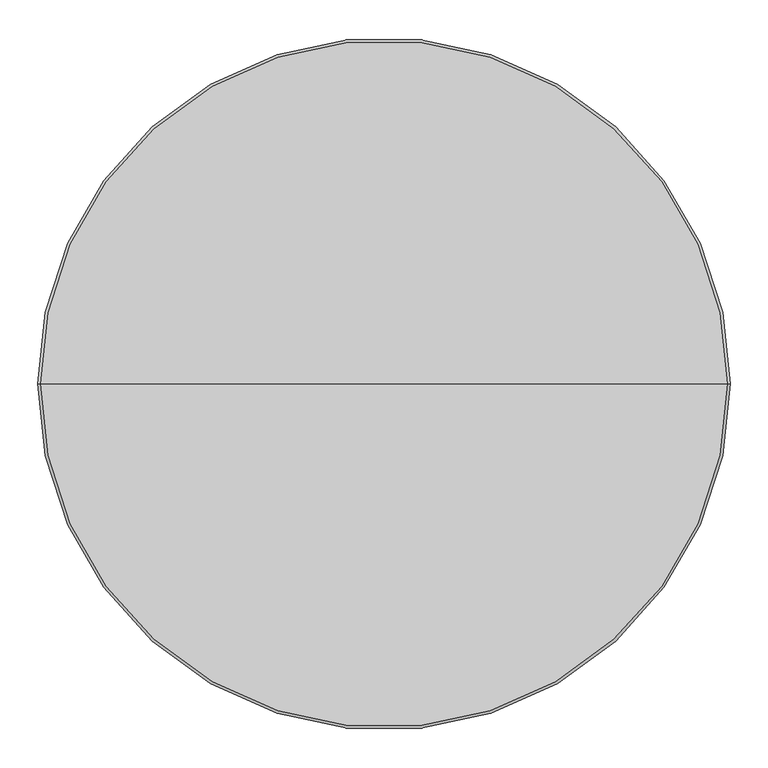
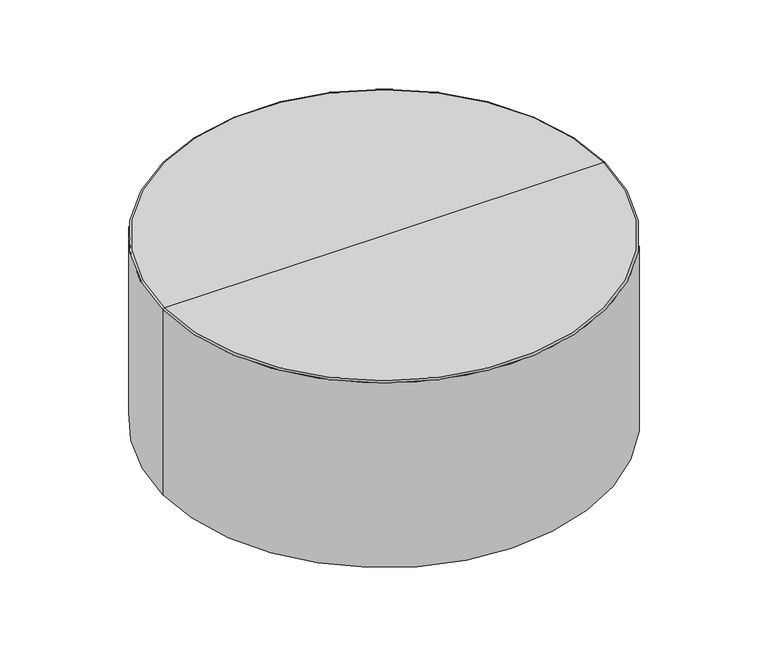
"""IFC4 building model written with IfcOpenShell, lengths in millimetres: furniture geometry, StanceHC-Drum_Table_Upholstered : DRT-36D-16-H."""

from ifc_helpers import new_model, si_unit, point, frame, frame_2d, origin, origin_with_axes, place, context, project, spatial, circle_curve, ellipse_curve, trimmed, segment, composite_curve, outline, extrude, source, transform, mapped, element, save
from ifc_brep_helpers import plane_surface, cylinder_surface, revolved_surface, advanced_brep


def furniture_af896ca5(model_context):
    return source(origin(), model_context, "Body", "SolidModel", [
        extrude(outline(composite_curve([segment(trimmed(circle_curve(frame_2d((0.0, 396.1664845)), 12.7), [point((-12.7, 396.1664845))], [point((12.7, 396.1664845))], False, "CARTESIAN"), True, "CONTINUOUS"), segment(trimmed(circle_curve(frame_2d((0.0, 396.1664845)), 12.7), [point((12.7, 396.1664845))], [point((-12.7, 396.1664845))], False, "CARTESIAN"), True, "CONTINUOUS")], self_intersect=False)), origin_with_axes(), (0.0, 0.0, 1.0), 4.7625),
        extrude(outline(composite_curve([segment(trimmed(circle_curve(frame_2d((0.0, -396.1664845)), 12.7), [point((-12.7, -396.1664845))], [point((12.7, -396.1664845))], False, "CARTESIAN"), True, "CONTINUOUS"), segment(trimmed(circle_curve(frame_2d((0.0, -396.1664845)), 12.7), [point((12.7, -396.1664845))], [point((-12.7, -396.1664845))], False, "CARTESIAN"), True, "CONTINUOUS")], self_intersect=False)), origin_with_axes(), (0.0, 0.0, 1.0), 4.7625),
        extrude(outline(composite_curve([segment(trimmed(circle_curve(frame_2d((400.0496404, 0.0)), 12.7), [point((387.3496404, 0.0))], [point((412.7496404, 0.0))], False, "CARTESIAN"), True, "CONTINUOUS"), segment(trimmed(circle_curve(frame_2d((400.0496404, 0.0)), 12.7), [point((412.7496404, 0.0))], [point((387.3496404, 0.0))], False, "CARTESIAN"), True, "CONTINUOUS")], self_intersect=False)), origin_with_axes(), (0.0, 0.0, 1.0), 4.7625),
        extrude(outline(composite_curve([segment(trimmed(circle_curve(frame_2d((-400.0496404, 0.0)), 12.7), [point((-412.7496404, 0.0))], [point((-387.3496404, 0.0))], False, "CARTESIAN"), True, "CONTINUOUS"), segment(trimmed(circle_curve(frame_2d((-400.0496404, 0.0)), 12.7), [point((-387.3496404, 0.0))], [point((-412.7496404, 0.0))], False, "CARTESIAN"), True, "CONTINUOUS")], self_intersect=False)), origin_with_axes(), (0.0, 0.0, 1.0), 4.7625),
        advanced_brep(
        [(-457.2, 0.0, 4.7625), (457.2, 0.0, 4.7625), (0.0, 0.0, 4.7625), (-457.2, 0.0, 408.0389933), (457.2, 0.0, 408.0389933), (-454.0764933, 0.0, 411.1625), (454.0764933, 0.0, 411.1625), (0.0, 0.0, 411.1625)],
        [
            (0, 1, circle_curve(frame((0.0, 0.0, 4.7625), z_axis=(0.0, 0.0, -1.0), x_axis=(1.0, 0.0, 0.0)), 457.2)),
            (1, 2),
            (2, 0),
            (1, 0, circle_curve(frame((0.0, 0.0, 4.7625), z_axis=(0.0, 0.0, -1.0), x_axis=(1.0, 0.0, 0.0)), 457.2)),
            (3, 4, circle_curve(frame((0.0, 0.0, 408.0389933), z_axis=(0.0, 0.0, -1.0), x_axis=(1.0, 0.0, 0.0)), 457.2)),
            (4, 1),
            (0, 3),
            (4, 3, circle_curve(frame((0.0, 0.0, 408.0389933), z_axis=(0.0, 0.0, -1.0), x_axis=(1.0, 0.0, 0.0)), 457.2)),
            (5, 6, circle_curve(frame((0.0, 0.0, 411.1625), z_axis=(0.0, 0.0, -1.0), x_axis=(1.0, 0.0, 0.0)), 454.0764933)),
            (6, 4, circle_curve(frame((454.0764933, 0.0, 408.0389933), z_axis=(0.0, 1.0, 0.0), x_axis=(1.0, 0.0, 0.0)), 3.1235067)),
            (3, 5, circle_curve(frame((-454.0764933, 0.0, 408.0389933), z_axis=(0.0, 1.0, 0.0), x_axis=(-1.0, 0.0, 0.0)), 3.1235067)),
            (6, 5, circle_curve(frame((0.0, 0.0, 411.1625), z_axis=(0.0, 0.0, -1.0), x_axis=(1.0, 0.0, 0.0)), 454.0764933)),
            (7, 6),
            (5, 7),
        ],
        [
            plane_surface(frame((0.0, 0.0, 4.7625), z_axis=(0.0, 0.0, -1.0), x_axis=(1.0, 0.0, 0.0))),
            cylinder_surface(frame((0.0, 0.0, 506.4125), z_axis=(0.0, 0.0, 1.0), x_axis=(1.0, 0.0, 0.0)), 457.2),
            revolved_surface(trimmed(ellipse_curve(frame((454.0764933, 0.0, 408.0389933), z_axis=(0.0, -1.0, 0.0), x_axis=(1.0, 0.0, 0.0)), 3.1235067, 3.1235067), [point((457.2, 0.0, 408.0389933))], [point((454.0764933, 0.0, 411.1625))], True, "CARTESIAN"), (0.0, 0.0, 506.4125), (0.0, 0.0, 1.0)),
            plane_surface(frame((0.0, 0.0, 411.1625), z_axis=(0.0, 0.0, 1.0), x_axis=(1.0, 0.0, 0.0))),
        ],
        [
            (0, [[1, 2, 3]]),
            (0, [[4, -3, -2]]),
            (1, [[5, 6, -1, 7]]),
            (1, [[8, -7, -4, -6]]),
            (2, [[9, 10, -5, 11]]),
            (2, [[12, -11, -8, -10]]),
            (3, [[13, -9, 14]]),
            (3, [[-14, -12, -13]]),
        ],
    ),
    ])


if __name__ == "__main__":
    model = new_model("IFC4")
    model_context = context("Model", 3, world=origin())
    ifc_project = project(units=[si_unit("LENGTHUNIT", "METRE", prefix="MILLI")], contexts=[model_context])
    site = spatial("IfcSite", under=ifc_project)
    building = spatial("IfcBuilding", under=site)
    placement = place(None, origin())
    furniture_shape = furniture_af896ca5(model_context)
    element("IfcFurniture", 1, ObjectType="StanceHC-Drum_Table_Upholstered : DRT-36D-16-H", at=placement, inside=building, context=model_context, shape_type="MappedRepresentation", body=[
        mapped(furniture_shape, transform((0.0, 0.0, 0.0), x_axis=(1.0, 0.0, 0.0), y_axis=(0.0, 1.0, 0.0), z_axis=(0.0, 0.0, 1.0))),
    ])
    save(model, "model.ifc")
